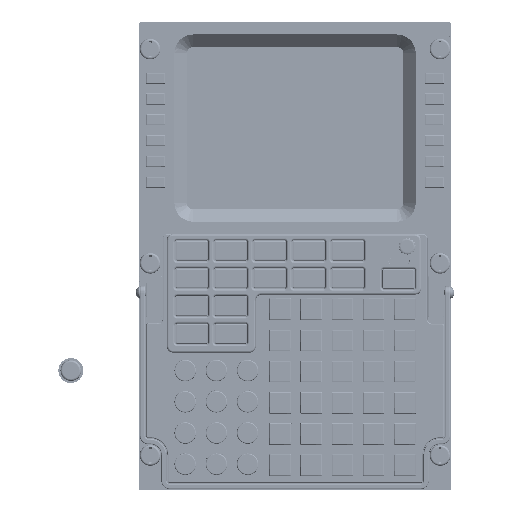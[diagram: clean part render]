
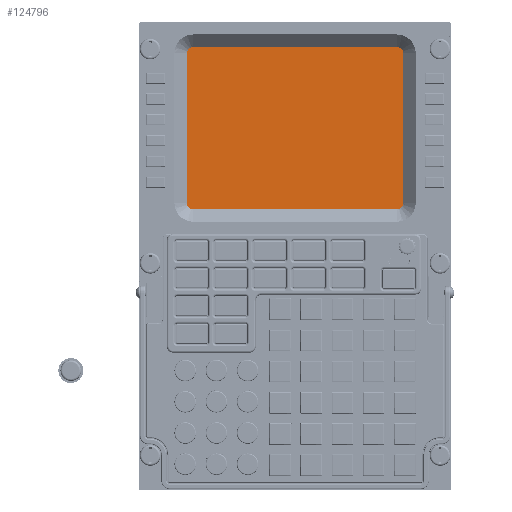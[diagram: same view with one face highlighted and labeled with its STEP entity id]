
A CAD part, top view. The second image highlights one B-rep face of the part: STEP entity #124796.
In plain terms, the highlighted planar face has unit normal (0, 0, 1).
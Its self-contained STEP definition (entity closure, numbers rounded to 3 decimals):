
#13600=FACE_OUTER_BOUND('',#20925,.T.);
#20925=EDGE_LOOP('',(#103466,#103467,#103468,#103469));
#35866=LINE('',#205251,#47218);
#35870=LINE('',#205259,#47222);
#35873=LINE('',#205265,#47225);
#35876=LINE('',#205270,#47228);
#47218=VECTOR('',#157313,10.);
#47222=VECTOR('',#157319,10.);
#47225=VECTOR('',#157324,10.);
#47228=VECTOR('',#157329,10.);
#58452=VERTEX_POINT('',#205249);
#58453=VERTEX_POINT('',#205250);
#58456=VERTEX_POINT('',#205258);
#58458=VERTEX_POINT('',#205264);
#74123=EDGE_CURVE('',#58452,#58453,#35866,.T.);
#74127=EDGE_CURVE('',#58456,#58452,#35870,.T.);
#74130=EDGE_CURVE('',#58458,#58456,#35873,.T.);
#74133=EDGE_CURVE('',#58453,#58458,#35876,.T.);
#103466=ORIENTED_EDGE('',*,*,#74133,.F.);
#103467=ORIENTED_EDGE('',*,*,#74123,.F.);
#103468=ORIENTED_EDGE('',*,*,#74127,.F.);
#103469=ORIENTED_EDGE('',*,*,#74130,.F.);
#119415=PLANE('',#134081);
#124796=ADVANCED_FACE('',(#13600),#119415,.F.);
#134081=AXIS2_PLACEMENT_3D('',#205272,#157331,#157332);
#157313=DIRECTION('',(0.,-1.,0.));
#157319=DIRECTION('',(1.,0.,0.));
#157324=DIRECTION('',(0.,1.,0.));
#157329=DIRECTION('',(-1.,0.,0.));
#157331=DIRECTION('center_axis',(0.,0.,-1.));
#157332=DIRECTION('ref_axis',(-1.,0.,0.));
#205249=CARTESIAN_POINT('',(111.14,86.23,-0.2));
#205250=CARTESIAN_POINT('',(111.14,7.,-0.2));
#205251=CARTESIAN_POINT('',(111.14,86.23,-0.2));
#205258=CARTESIAN_POINT('',(6.49,86.23,-0.2));
#205259=CARTESIAN_POINT('',(6.49,86.23,-0.2));
#205264=CARTESIAN_POINT('',(6.49,7.,-0.2));
#205265=CARTESIAN_POINT('',(6.49,7.,-0.2));
#205270=CARTESIAN_POINT('',(111.14,7.,-0.2));
#205272=CARTESIAN_POINT('Origin',(58.815,46.615,-0.2));
